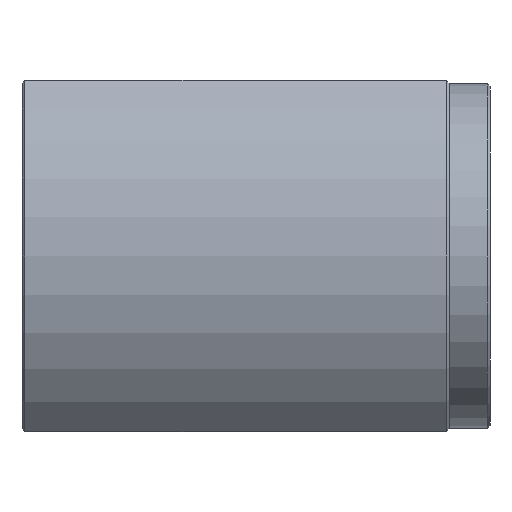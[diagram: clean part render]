
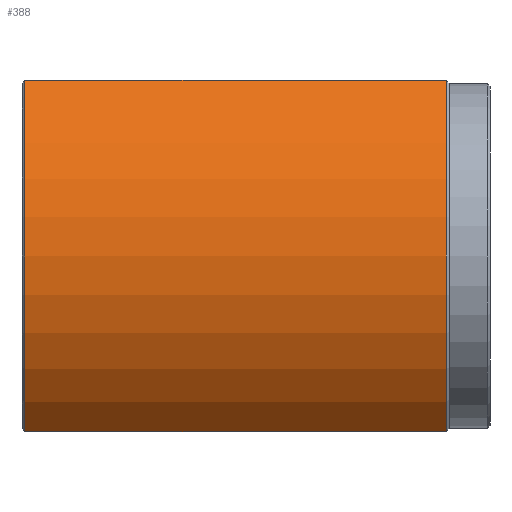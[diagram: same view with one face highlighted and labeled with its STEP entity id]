
A CAD part, front view. The second image highlights one B-rep face of the part: STEP entity #388.
In plain terms, the highlighted cylindrical face has radius 41 mm (diameter 82 mm), a partial arc.
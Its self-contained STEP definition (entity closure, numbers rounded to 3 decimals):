
#137=CARTESIAN_POINT('',(72.5,-27.946,30.0));
#138=VERTEX_POINT('',#137);
#146=CARTESIAN_POINT('',(72.5,-27.946,-30.0));
#147=VERTEX_POINT('',#146);
#148=CARTESIAN_POINT('',(72.5,0.0,0.0));
#149=DIRECTION('',(1.0,0.0,0.0));
#150=DIRECTION('',(0.0,-1.0,0.0));
#151=AXIS2_PLACEMENT_3D('',#148,#149,#150);
#152=CIRCLE('',#151,41.);
#153=EDGE_CURVE('',#138,#147,#152,.T.);
#339=CARTESIAN_POINT('',(0.5,-27.946,-30.0));
#340=VERTEX_POINT('',#339);
#341=CARTESIAN_POINT('',(0.5,-27.946,-30.0));
#342=DIRECTION('',(1.0,0.0,0.0));
#343=VECTOR('',#342,72.0);
#344=LINE('',#341,#343);
#345=EDGE_CURVE('',#340,#147,#344,.T.);
#364=CARTESIAN_POINT('',(0.0,0.0,0.0));
#365=DIRECTION('',(1.0,0.0,0.0));
#366=DIRECTION('',(0.0,1.0,0.0));
#367=AXIS2_PLACEMENT_3D('',#364,#365,#366);
#368=CYLINDRICAL_SURFACE('',#367,41.);
#369=ORIENTED_EDGE('',*,*,#153,.F.);
#370=CARTESIAN_POINT('',(0.5,-27.946,30.0));
#371=VERTEX_POINT('',#370);
#372=CARTESIAN_POINT('',(0.5,-27.946,30.0));
#373=DIRECTION('',(1.0,0.0,0.0));
#374=VECTOR('',#373,72.0);
#375=LINE('',#372,#374);
#376=EDGE_CURVE('',#371,#138,#375,.T.);
#377=ORIENTED_EDGE('',*,*,#376,.F.);
#378=CARTESIAN_POINT('',(0.5,0.0,0.0));
#379=DIRECTION('',(-1.0,0.0,0.0));
#380=DIRECTION('',(0.0,-1.0,0.0));
#381=AXIS2_PLACEMENT_3D('',#378,#379,#380);
#382=CIRCLE('',#381,41.);
#383=EDGE_CURVE('',#340,#371,#382,.T.);
#384=ORIENTED_EDGE('',*,*,#383,.F.);
#385=ORIENTED_EDGE('',*,*,#345,.T.);
#386=EDGE_LOOP('',(#369,#377,#384,#385));
#387=FACE_OUTER_BOUND('',#386,.T.);
#388=ADVANCED_FACE('',(#387),#368,.T.);
